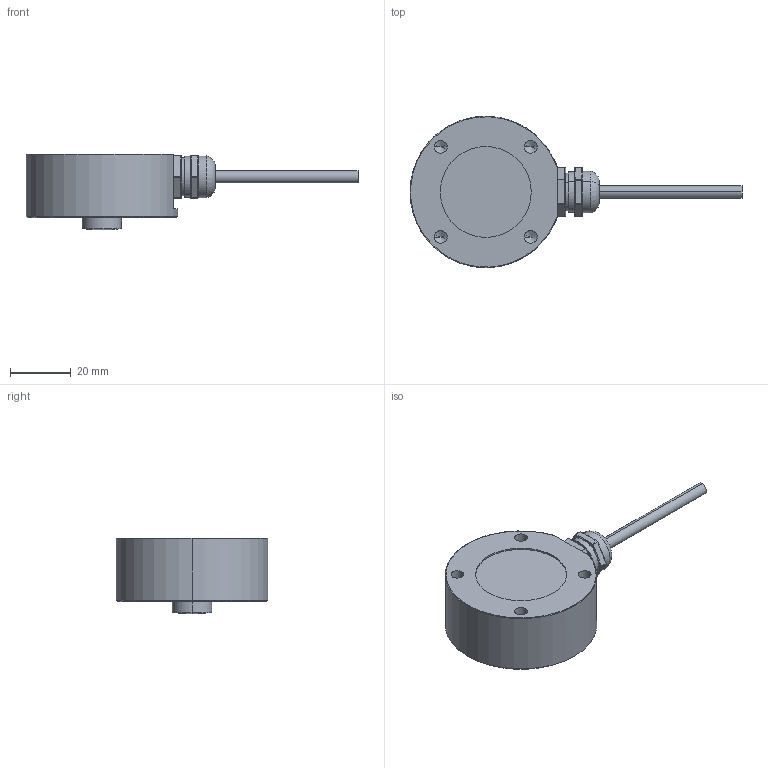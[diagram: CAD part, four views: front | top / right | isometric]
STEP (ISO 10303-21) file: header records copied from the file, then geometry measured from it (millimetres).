
FILE_DESCRIPTION (( 'STEP AP203' ), '1' );
FILE_NAME ('F1821(20-2000kg).STEP', '2019-04-23T12:36:52', ( '' ), ( '' ), 'SwSTEP 2.0', 'SolidWorks 2018', '' );
FILE_SCHEMA (( 'CONFIG_CONTROL_DESIGN' ));
Length unit declared in the file: millimetre
Products named in the file (1): F1821(20-2000kg)
Bounding box: 109.5 x 50 x 25 mm (x, y, z)
Volume: 43135.1 mm3; surface area: 9754.8 mm2
Topology: 2 solids, 2 shells, 134 faces, 297 edges, 165 vertices
Faces by surface type: cylinder 62, plane 31, sphere 18, cone 14, bspline 6, torus 3
Entity records: 3823 total; most frequent: CARTESIAN_POINT 858, DIRECTION 666, ORIENTED_EDGE 554, EDGE_CURVE 277, AXIS2_PLACEMENT_3D 272, VERTEX_POINT 160, EDGE_LOOP 147, CIRCLE 143
